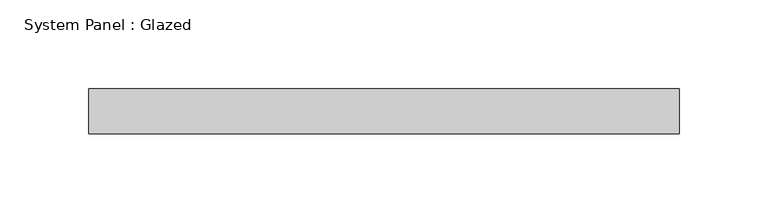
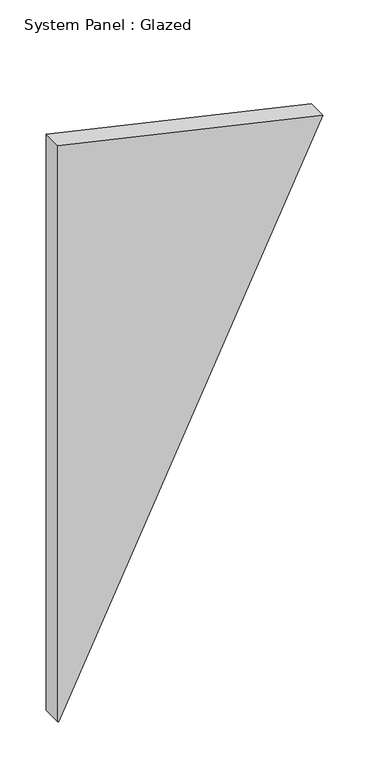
"""IFC4 building model written with IfcOpenShell, lengths in millimetres: plate geometry, System Panel : Glazed."""

from ifc_helpers import new_model, si_unit, frame, origin, place, context, project, spatial, polyline, outline, extrude, source, transform, mapped, element, save


def system_panel_glazed_13e35390(model_context):
    return source(origin(), model_context, "Body", "SweptSolid", [
        extrude(outline(polyline([(0.2534176, -166.3528862), (0.0, -165.2448816), (687.0025816, 166.3528862), (763.0965383, -166.3488153), (0.2534176, -166.3528862)])), frame((0.0, -44.45, 0.0), z_axis=(0.0, 1.0, 0.0), x_axis=(0.0, 0.0, 1.0)), (0.0, 0.0, 1.0), 25.4),
    ])


if __name__ == "__main__":
    model = new_model("IFC4")
    model_context = context("Model", 3, world=origin())
    ifc_project = project(units=[si_unit("LENGTHUNIT", "METRE", prefix="MILLI")], contexts=[model_context])
    site = spatial("IfcSite", under=ifc_project)
    building = spatial("IfcBuilding", under=site)
    placement = place(None, origin())
    system_panel_glazed_shape = system_panel_glazed_13e35390(model_context)
    element("IfcPlate", 1, ObjectType="System Panel : Glazed", at=placement, inside=building, context=model_context, shape_type="MappedRepresentation", body=[
        mapped(system_panel_glazed_shape, transform((0.0, 0.0, 0.0), x_axis=(1.0, 0.0, 0.0), y_axis=(0.0, 1.0, 0.0), z_axis=(0.0, 0.0, 1.0))),
    ])
    save(model, "model.ifc")
